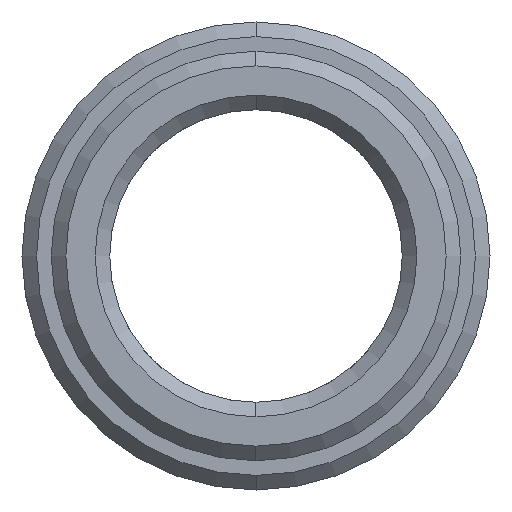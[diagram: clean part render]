
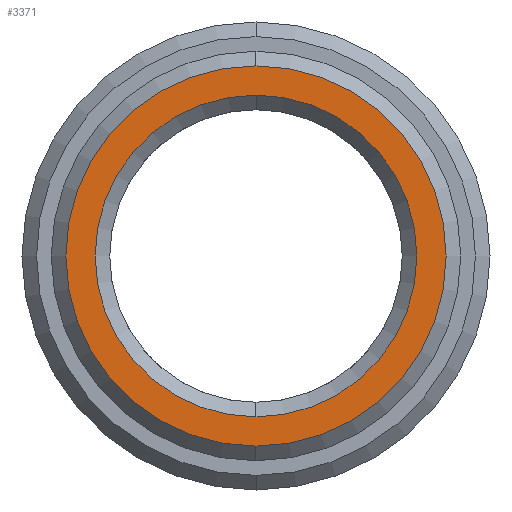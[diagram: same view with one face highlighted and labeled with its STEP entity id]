
A CAD part, left-side view. The second image highlights one B-rep face of the part: STEP entity #3371.
In plain terms, the highlighted planar face has unit normal (-1, 0, 0).
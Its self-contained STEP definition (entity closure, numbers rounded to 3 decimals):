
#1934=CARTESIAN_POINT('',(-5.,0.,0.));
#1935=DIRECTION('',(1.,0.,0.));
#1936=DIRECTION('',(0.,0.,1.));
#1937=AXIS2_PLACEMENT_3D('',#1934,#1935,#1936);
#1939=CARTESIAN_POINT('',(-5.,0.,0.));
#1940=DIRECTION('',(1.,0.,0.));
#1941=DIRECTION('',(0.,0.,-1.));
#1942=AXIS2_PLACEMENT_3D('',#1939,#1940,#1941);
#1944=CARTESIAN_POINT('',(-5.,0.,0.));
#1945=DIRECTION('',(1.,0.,0.));
#1946=DIRECTION('',(0.,0.,-1.));
#1947=AXIS2_PLACEMENT_3D('',#1944,#1945,#1946);
#1949=CARTESIAN_POINT('',(-5.,0.,0.));
#1950=DIRECTION('',(1.,0.,0.));
#1951=DIRECTION('',(0.,0.,1.));
#1952=AXIS2_PLACEMENT_3D('',#1949,#1950,#1951);
#2134=CARTESIAN_POINT('',(-5.,0.,-5.5));
#2135=CARTESIAN_POINT('',(-5.,0.,5.5));
#2136=VERTEX_POINT('',#2134);
#2137=VERTEX_POINT('',#2135);
#2142=CARTESIAN_POINT('',(-5.,0.,6.5));
#2143=CARTESIAN_POINT('',(-5.,0.,-6.5));
#2144=VERTEX_POINT('',#2142);
#2145=VERTEX_POINT('',#2143);
#3356=CARTESIAN_POINT('',(-5.,0.,0.));
#3357=DIRECTION('',(1.,0.,0.));
#3358=DIRECTION('',(0.,0.,1.));
#3359=AXIS2_PLACEMENT_3D('',#3356,#3357,#3358);
#3360=PLANE('',#3359);
#3361=ORIENTED_EDGE('',*,*,#3323,.T.);
#3362=ORIENTED_EDGE('',*,*,#3338,.T.);
#3363=EDGE_LOOP('',(#3361,#3362));
#3364=FACE_OUTER_BOUND('',#3363,.F.);
#3366=ORIENTED_EDGE('',*,*,#3365,.F.);
#3368=ORIENTED_EDGE('',*,*,#3367,.F.);
#3369=EDGE_LOOP('',(#3366,#3368));
#3370=FACE_BOUND('',#3369,.F.);
#3371=ADVANCED_FACE('',(#3364,#3370),#3360,.F.);
#1938=CIRCLE('',#1937,6.5);
#1943=CIRCLE('',#1942,6.5);
#1948=CIRCLE('',#1947,5.5);
#1953=CIRCLE('',#1952,5.5);
#3323=EDGE_CURVE('',#2144,#2145,#1938,.T.);
#3338=EDGE_CURVE('',#2145,#2144,#1943,.T.);
#3365=EDGE_CURVE('',#2136,#2137,#1948,.T.);
#3367=EDGE_CURVE('',#2137,#2136,#1953,.T.);
